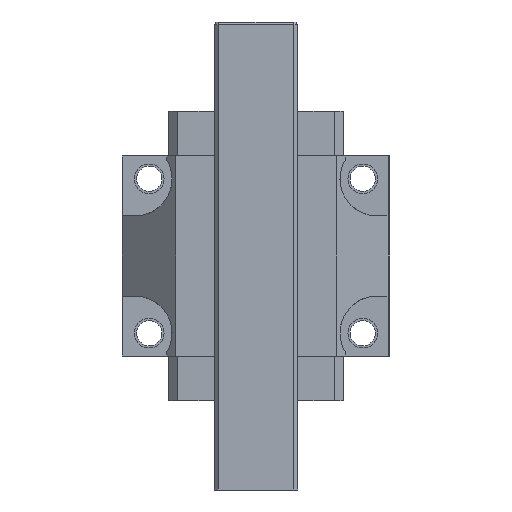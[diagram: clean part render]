
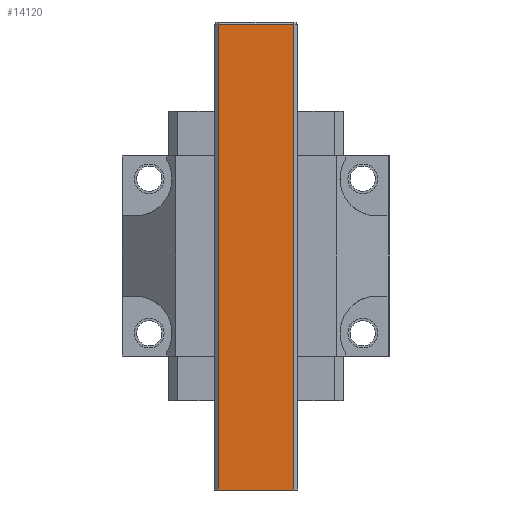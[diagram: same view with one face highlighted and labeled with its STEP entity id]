
A CAD part, front view. The second image highlights one B-rep face of the part: STEP entity #14120.
In plain terms, the highlighted planar face has unit normal (0, -1, 0).
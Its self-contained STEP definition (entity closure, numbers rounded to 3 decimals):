
#13081=DIRECTION('',(1.,0.,0.));
#13082=VECTOR('',#13081,25.6);
#13083=CARTESIAN_POINT('',(-12.8,-16.5,-78.85));
#13084=LINE('',#13083,#13082);
#13354=DIRECTION('',(1.,0.,0.));
#13355=VECTOR('',#13354,25.6);
#13356=CARTESIAN_POINT('',(-12.8,-16.5,77.984));
#13357=LINE('',#13356,#13355);
#13358=DIRECTION('',(0.,0.,1.));
#13359=VECTOR('',#13358,156.834);
#13360=CARTESIAN_POINT('',(-12.8,-16.5,-78.85));
#13361=LINE('',#13360,#13359);
#13366=DIRECTION('',(0.,0.,1.));
#13367=VECTOR('',#13366,156.834);
#13368=CARTESIAN_POINT('',(12.8,-16.5,-78.85));
#13369=LINE('',#13368,#13367);
#13552=CARTESIAN_POINT('',(-12.8,-16.5,-78.85));
#13553=VERTEX_POINT('',#13552);
#13554=CARTESIAN_POINT('',(12.8,-16.5,-78.85));
#13555=VERTEX_POINT('',#13554);
#13616=CARTESIAN_POINT('',(12.8,-16.5,77.984));
#13617=VERTEX_POINT('',#13616);
#13620=CARTESIAN_POINT('',(-12.8,-16.5,77.984));
#13621=VERTEX_POINT('',#13620);
#14108=CARTESIAN_POINT('',(-12.8,-16.5,-78.85));
#14109=DIRECTION('',(0.,-1.,0.));
#14110=DIRECTION('',(1.,0.,0.));
#14111=AXIS2_PLACEMENT_3D('',#14108,#14109,#14110);
#14112=PLANE('',#14111);
#14113=ORIENTED_EDGE('',*,*,#14099,.T.);
#14115=ORIENTED_EDGE('',*,*,#14114,.F.);
#14116=ORIENTED_EDGE('',*,*,#13701,.F.);
#14117=ORIENTED_EDGE('',*,*,#14074,.T.);
#14118=EDGE_LOOP('',(#14113,#14115,#14116,#14117));
#14119=FACE_OUTER_BOUND('',#14118,.F.);
#13701=EDGE_CURVE('',#13553,#13555,#13084,.T.);
#14074=EDGE_CURVE('',#13553,#13621,#13361,.T.);
#14099=EDGE_CURVE('',#13621,#13617,#13357,.T.);
#14114=EDGE_CURVE('',#13555,#13617,#13369,.T.);
#14120=ADVANCED_FACE('',(#14119),#14112,.T.);
